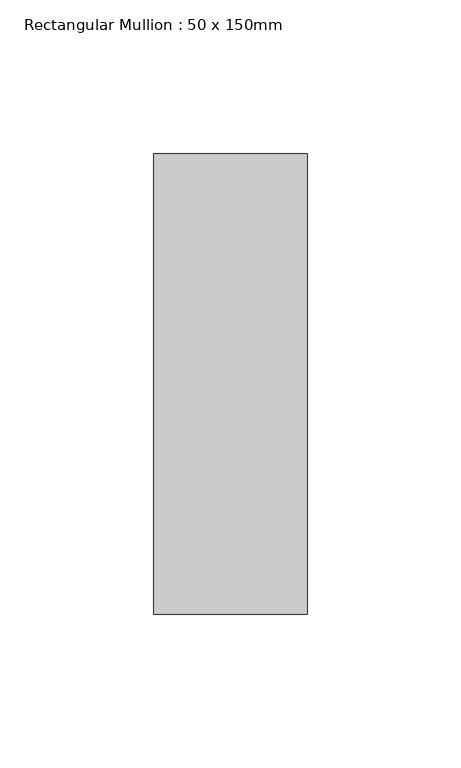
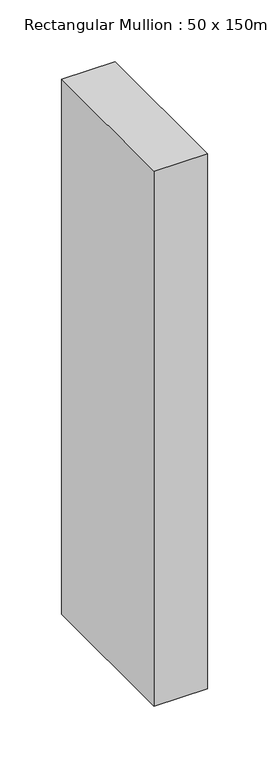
"""IFC4 building model written with IfcOpenShell, lengths in millimetres: member geometry, Rectangular Mullion : 50 x 150mm."""

from ifc_helpers import new_model, si_unit, frame, origin, place, context, project, spatial, polyline, outline, extrude, source, transform, mapped, element, save


def rectangular_mullion_50_x_150mm_15dee4e3(model_context):
    return source(origin(), model_context, "Body", "SweptSolid", [
        extrude(outline(polyline([(0.0, 75.0), (0.0, -75.0), (-50.0, -75.0), (-50.0, 75.0), (0.0, 75.0)])), frame((0.0, 0.0, -529.0000002), z_axis=(0.0, 0.0, 1.0), x_axis=(1.0, 0.0, 0.0)), (0.0, 0.0, 1.0), 529.0000002),
    ])


if __name__ == "__main__":
    model = new_model("IFC4")
    model_context = context("Model", 3, world=origin())
    ifc_project = project(units=[si_unit("LENGTHUNIT", "METRE", prefix="MILLI")], contexts=[model_context])
    site = spatial("IfcSite", under=ifc_project)
    building = spatial("IfcBuilding", under=site)
    placement = place(None, origin())
    rectangular_mullion_50_x_150mm_shape = rectangular_mullion_50_x_150mm_15dee4e3(model_context)
    element("IfcMember", 1, ObjectType="Rectangular Mullion : 50 x 150mm", at=placement, inside=building, context=model_context, shape_type="MappedRepresentation", body=[
        mapped(rectangular_mullion_50_x_150mm_shape, transform((0.0, 0.0, 0.0), x_axis=(1.0, 0.0, 0.0), y_axis=(0.0, 1.0, 0.0), z_axis=(0.0, 0.0, 1.0))),
    ])
    save(model, "model.ifc")
